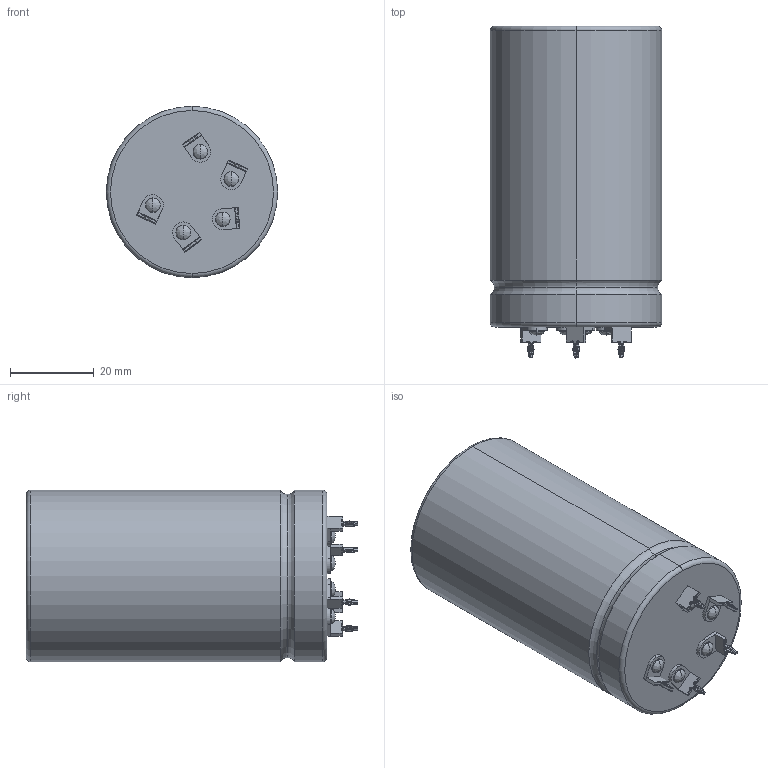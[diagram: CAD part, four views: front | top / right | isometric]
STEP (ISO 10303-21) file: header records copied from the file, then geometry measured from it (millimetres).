
FILE_DESCRIPTION (( 'STEP AP214' ), '1' );
FILE_NAME ('CARS_ALF2040G_40X70_D41L72S25LL6.5.STEP', '2019-04-30T14:27:18', ( '' ), ( '' ), 'SwSTEP 2.0', 'SolidWorks 2014', '' );
FILE_SCHEMA (( 'AUTOMOTIVE_DESIGN' ));
Length unit declared in the file: millimetre
Products named in the file (1): CARS_ALF2040G_40X70_D41L72S25LL6.5
Bounding box: 41 x 79.41 x 41 mm (x, y, z)
Volume: 94935.6 mm3; surface area: 12349.6 mm2
Topology: 6 solids, 6 shells, 395 faces, 960 edges, 577 vertices
Faces by surface type: cylinder 173, plane 161, torus 51, bspline 10
Entity records: 15806 total; most frequent: CARTESIAN_POINT 3055, ORIENTED_EDGE 1900, DIRECTION 1817, EDGE_CURVE 950, AXIS2_PLACEMENT_3D 609, LINE 599, VECTOR 599, VERTEX_POINT 577
